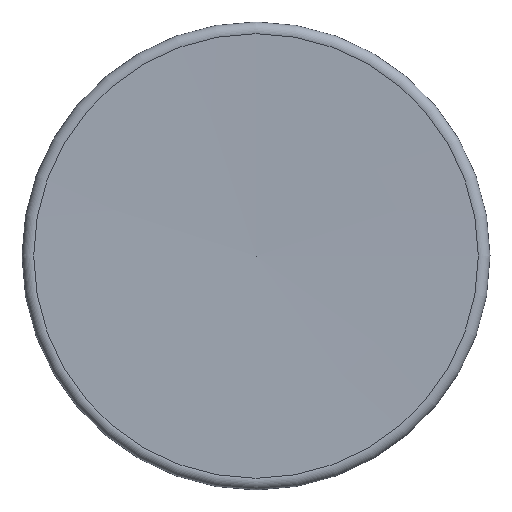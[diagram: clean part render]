
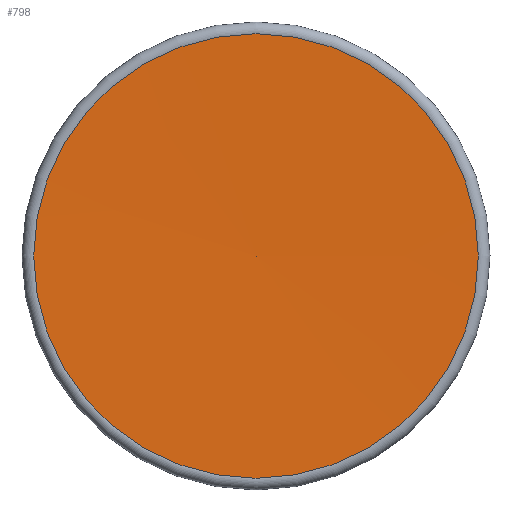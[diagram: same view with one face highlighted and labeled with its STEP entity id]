
A CAD part, front view. The second image highlights one B-rep face of the part: STEP entity #798.
In plain terms, the highlighted conical face has half-angle 89.228 degrees and reference radius 23.745 mm.
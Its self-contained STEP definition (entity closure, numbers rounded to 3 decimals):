
#782=CARTESIAN_POINT('',(0.0,-0.32,0.0));
#783=DIRECTION('',(0.0,-1.0,0.0));
#784=DIRECTION('',(-1.0,0.0,0.0));
#785=AXIS2_PLACEMENT_3D('',#782,#783,#784);
#786=CONICAL_SURFACE('',#785,23.745,89.228);
#787=CARTESIAN_POINT('',(-47.49,-0.64,0.0));
#788=VERTEX_POINT('',#787);
#789=CARTESIAN_POINT('',(0.0,-0.64,0.0));
#790=DIRECTION('',(0.0,1.0,0.0));
#791=DIRECTION('',(-1.0,0.0,0.0));
#792=AXIS2_PLACEMENT_3D('',#789,#790,#791);
#793=CIRCLE('',#792,47.49);
#794=EDGE_CURVE('',#788,#788,#793,.T.);
#795=ORIENTED_EDGE('',*,*,#794,.F.);
#796=EDGE_LOOP('',(#795));
#797=FACE_OUTER_BOUND('',#796,.T.);
#798=ADVANCED_FACE('',(#797),#786,.F.);
